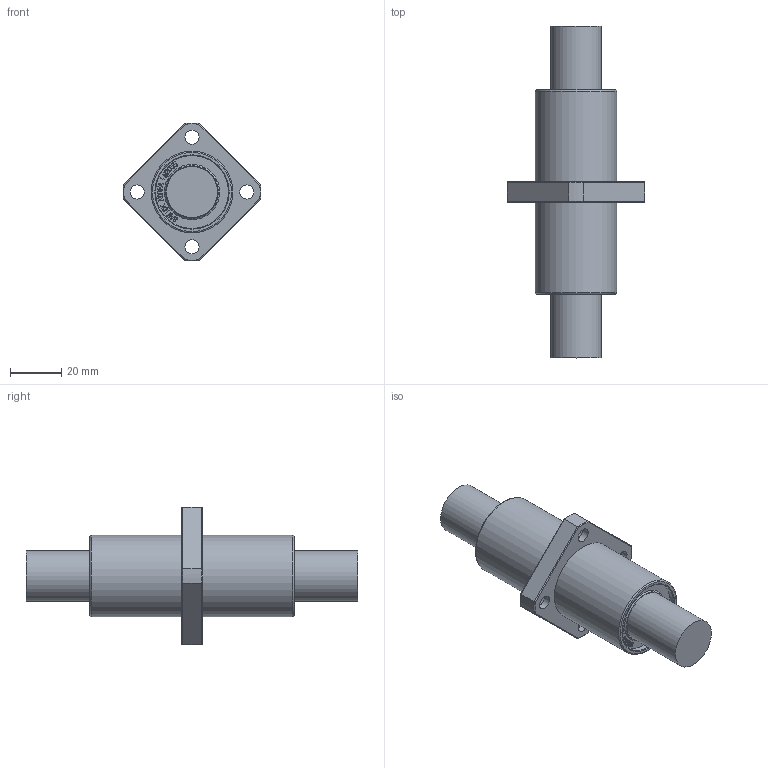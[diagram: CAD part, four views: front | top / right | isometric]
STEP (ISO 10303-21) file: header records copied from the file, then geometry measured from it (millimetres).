
FILE_DESCRIPTION(/* description */ (''),/* implementation_level */ '2;1');
FILE_NAME(/* name */ 'W:\(01) 2024년 홈페이지 CAD파일 최신화\LMEKM\IPT\LMEKM20UU.stp',/* time_stamp */ '2025-01-25T13:16:59+09:00',/* author */ ('서우현'),/* organization */ (''),/* preprocessor_version */ 'ST-DEVELOPER v17.2',/* originating_system */ 'Autodesk Inventor 2019',/* authorisation */ '');
FILE_SCHEMA (('AUTOMOTIVE_DESIGN { 1 0 10303 214 3 1 1 }'));
Length unit declared in the file: millimetre
Products named in the file (1): LM5
Bounding box: 53.97 x 130 x 53.97 mm (x, y, z)
Volume: 84260.8 mm3; surface area: 16305.8 mm2
Topology: 1 solids, 1 shells, 864 faces, 2426 edges, 1620 vertices
Faces by surface type: bspline 592, plane 240, cylinder 18, cone 12, torus 2
Full cylindrical faces by diameter (mm): 5.5 x4, 9.5 x4, 20 x2, 28.5 x2, 32 x2
Entity records: 29700 total; most frequent: CARTESIAN_POINT 11003, ORIENTED_EDGE 4852, EDGE_CURVE 2426, DIRECTION 1854, VERTEX_POINT 1620, B_SPLINE_CURVE_WITH_KNOTS 1184, LINE 1144, VECTOR 1144
